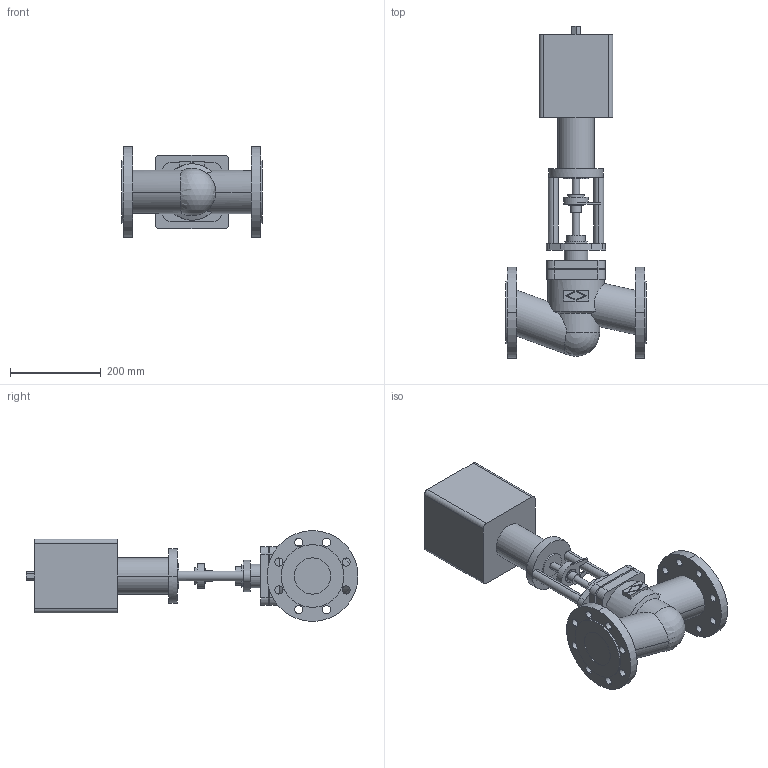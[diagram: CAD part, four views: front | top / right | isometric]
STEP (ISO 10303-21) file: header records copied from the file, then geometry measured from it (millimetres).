
FILE_DESCRIPTION( ( '' ), '1' );
FILE_NAME( 'F:/DE-SHS/TB/OR/04-Sonstiges/daten/files_3d/c000000780.stp', '2014-11-04T12:59:43', ( '' ), ( '' ), ' ', ' ', ' ' );
FILE_SCHEMA( ( 'CONFIG_CONTROL_DESIGN' ) );
Length unit declared in the file: millimetre
Products named in the file (2): 1; 2
Bounding box: 310 x 730.5 x 200 mm (x, y, z)
Volume: 10653634.8 mm3; surface area: 578623.9 mm2
Topology: 2 solids, 2 shells, 178 faces, 443 edges, 293 vertices
Faces by surface type: cylinder 98, plane 77, cone 2, sphere 1
Entity records: 6021 total; most frequent: CARTESIAN_POINT 1442, DIRECTION 995, ORIENTED_EDGE 882, EDGE_CURVE 441, AXIS2_PLACEMENT_3D 388, VERTEX_POINT 293, EDGE_LOOP 236, LINE 219
